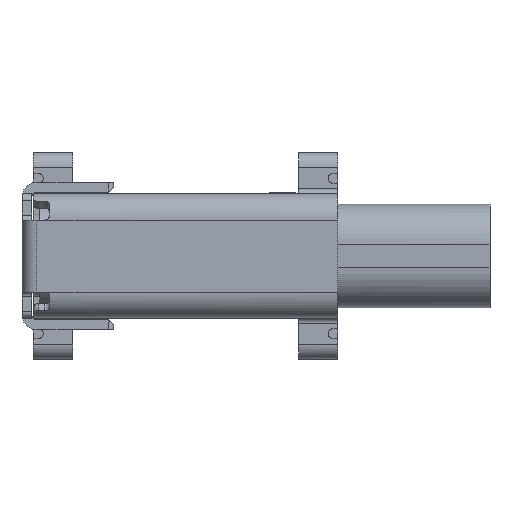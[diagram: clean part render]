
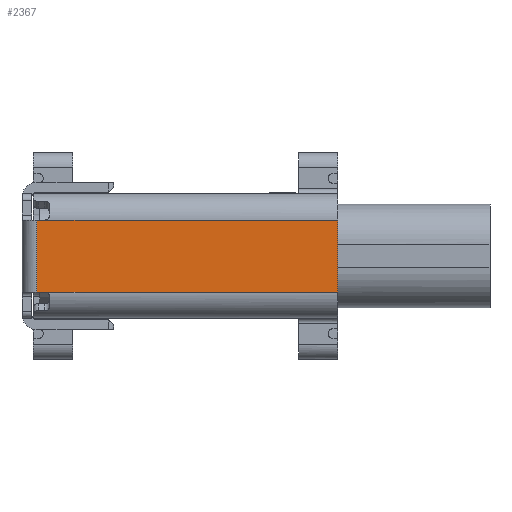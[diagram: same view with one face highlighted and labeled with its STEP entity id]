
A CAD part, front view. The second image highlights one B-rep face of the part: STEP entity #2367.
In plain terms, the highlighted planar face has unit normal (0, -1, 0).
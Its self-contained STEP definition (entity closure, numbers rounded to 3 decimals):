
#1586=CARTESIAN_POINT('',(-8.5,-4.77,-1.1));
#1587=VERTEX_POINT('',#1586);
#1597=CARTESIAN_POINT('',(-8.75,-4.77,-1.1));
#1598=VERTEX_POINT('',#1597);
#1599=CARTESIAN_POINT('',(-4.15,-4.77,-1.1));
#1600=DIRECTION('',(-1.0,0.0,0.0));
#1601=VECTOR('',#1600,1.0);
#1602=LINE('',#1599,#1601);
#1603=EDGE_CURVE('no 5484',#1587,#1598,#1602,.T.);
#1633=CARTESIAN_POINT('',(-8.75,-4.77,1.1));
#1634=VERTEX_POINT('',#1633);
#1635=CARTESIAN_POINT('',(-8.75,-4.77,0.0));
#1636=DIRECTION('',(0.0,0.0,1.0));
#1637=VECTOR('',#1636,1.0);
#1638=LINE('',#1635,#1637);
#1639=EDGE_CURVE('no 43068',#1598,#1634,#1638,.T.);
#1686=CARTESIAN_POINT('',(-8.5,-4.77,1.1));
#1687=VERTEX_POINT('',#1686);
#1688=CARTESIAN_POINT('',(-4.15,-4.77,1.1));
#1689=DIRECTION('',(1.0,0.0,0.0));
#1690=VECTOR('',#1689,1.0);
#1691=LINE('',#1688,#1690);
#1692=EDGE_CURVE('no 50422',#1634,#1687,#1691,.T.);
#2335=CARTESIAN_POINT('',(0.45,-4.77,-1.1));
#2336=VERTEX_POINT('',#2335);
#2337=CARTESIAN_POINT('',(-4.15,-4.77,-1.1));
#2338=DIRECTION('',(-1.0,0.0,0.0));
#2339=VECTOR('',#2338,1.0);
#2340=LINE('',#2337,#2339);
#2341=EDGE_CURVE('no 57865',#2336,#1587,#2340,.T.);
#2342=ORIENTED_EDGE('no 16307',*,*,#2341,.F.);
#2343=CARTESIAN_POINT('',(0.45,-4.77,1.1));
#2344=VERTEX_POINT('',#2343);
#2345=CARTESIAN_POINT('',(0.45,-4.77,0.0));
#2346=DIRECTION('',(0.0,0.0,-1.0));
#2347=VECTOR('',#2346,1.0);
#2348=LINE('',#2345,#2347);
#2349=EDGE_CURVE('no 15249',#2344,#2336,#2348,.T.);
#2350=ORIENTED_EDGE('no 8186',*,*,#2349,.F.);
#2351=CARTESIAN_POINT('',(0.636,-4.77,1.1));
#2352=DIRECTION('',(1.0,0.0,0.0));
#2353=VECTOR('',#2352,1.0);
#2354=LINE('',#2351,#2353);
#2355=EDGE_CURVE('no 43729',#1687,#2344,#2354,.T.);
#2356=ORIENTED_EDGE('no 26752',*,*,#2355,.F.);
#2357=ORIENTED_EDGE('no 53874',*,*,#1692,.F.);
#2358=ORIENTED_EDGE('no 54293',*,*,#1639,.F.);
#2359=ORIENTED_EDGE('no 24518',*,*,#1603,.F.);
#2360=EDGE_LOOP('',(#2342,#2350,#2356,#2357,#2358,#2359));
#2361=FACE_OUTER_BOUND('',#2360,.T.);
#2362=CARTESIAN_POINT('',(-4.15,-4.77,0.0));
#2363=DIRECTION('',(-0.0,1.0,0.0));
#2364=DIRECTION('',(1.0,0.0,0.0));
#2365=AXIS2_PLACEMENT_3D('',#2362,#2363,#2364);
#2366=PLANE('',#2365);
#2367=ADVANCED_FACE('no 46436',(#2361),#2366,.F.);
